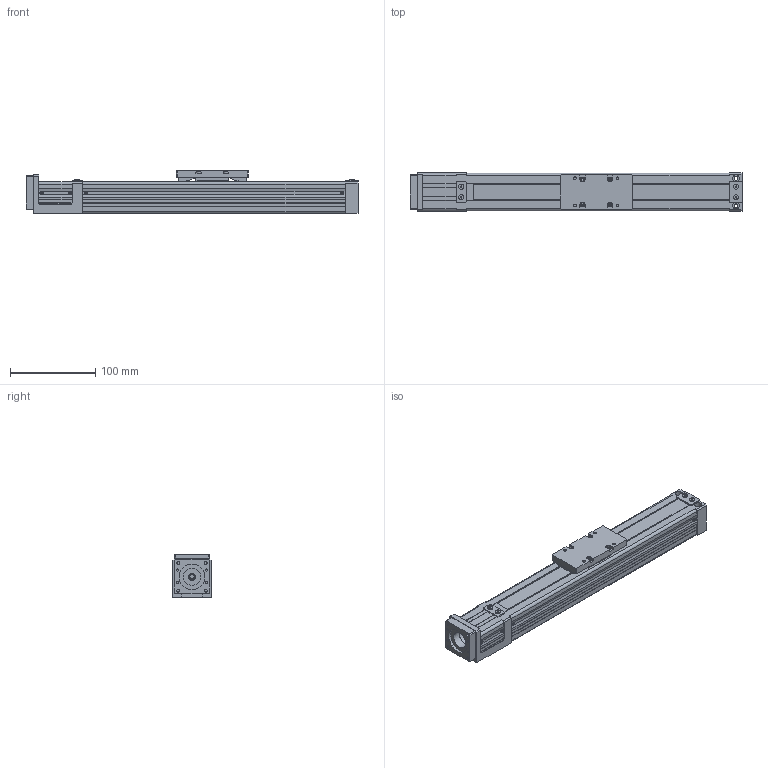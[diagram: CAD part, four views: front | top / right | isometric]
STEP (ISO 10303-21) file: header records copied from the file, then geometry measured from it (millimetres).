
FILE_DESCRIPTION((''),'2;1');
FILE_NAME('D:\製品 (図面)\カタログ用3D\SU部品\SU45×50\ダウンロード用\SU45×50-MB40\SU45×50-200-MB40.stp','2011-06-17T14:35:16',('Tsuchiya'),(''),'Autodesk Inventor 10','Autodesk Inventor 10','');
FILE_SCHEMA(('AUTOMOTIVE_DESIGN { 1 0 10303 214 1 1 1 1 }'));
Length unit declared in the file: millimetre
Products named in the file (3): SU45×50-200-MB40; SB45×50-200-MB40-1(1); SU45×50-T(1)
Assembly tree (2 placements, depth 2):
  SU45×50-200-MB40
    SB45×50-200-MB40-1(1)
    SU45×50-T(1)
Bounding box: 389 x 45 x 50 mm (x, y, z)
Volume: 271958.8 mm3; surface area: 159494.2 mm2
Topology: 2 solids, 2 shells, 668 faces, 1802 edges, 1188 vertices
Faces by surface type: plane 515, cylinder 84, bspline 38, torus 18, cone 13
Full cylindrical faces by diameter (mm): 2.459 x4, 3.242 x8, 3.4 x4, 4.5 x4, 5 x4, 6 x5, 7 x6, 8 x7, 10 x1, 20 x2, 30 x2
Entity records: 20579 total; most frequent: CARTESIAN_POINT 4381, ORIENTED_EDGE 3324, DIRECTION 3110, EDGE_CURVE 1662, VECTOR 1320, LINE 1320, VERTEX_POINT 1148, AXIS2_PLACEMENT_3D 895
